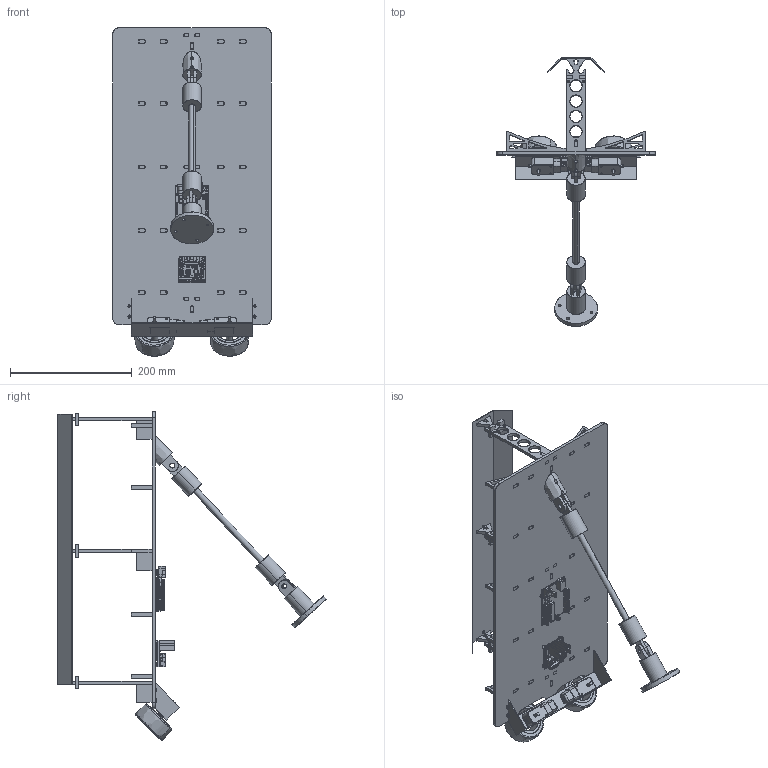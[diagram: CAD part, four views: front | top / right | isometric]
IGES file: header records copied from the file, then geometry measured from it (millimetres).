
Start section: SolidWorks IGES file using analytic representation for surfaces
Global section: file name: C:\Users\fablab-info\Desktop\Miroir cylindro-parabolique\IGS 3D\Assemblage miroir.IGS; native system: SolidWorks 2017; preprocessor: SolidWorks 2017; author: fablab-info; date: 190712.154741; units: millimetre
Bounding box: 260 x 440.14 x 538.71 mm (x, y, z)
Surface area: 605902.7 mm2 (no closed solid volume)
Topology: 0 solids, 0 shells, 3688 faces, 39492 edges, 39488 vertices
Faces by surface type: bspline 2921, revolution 767
